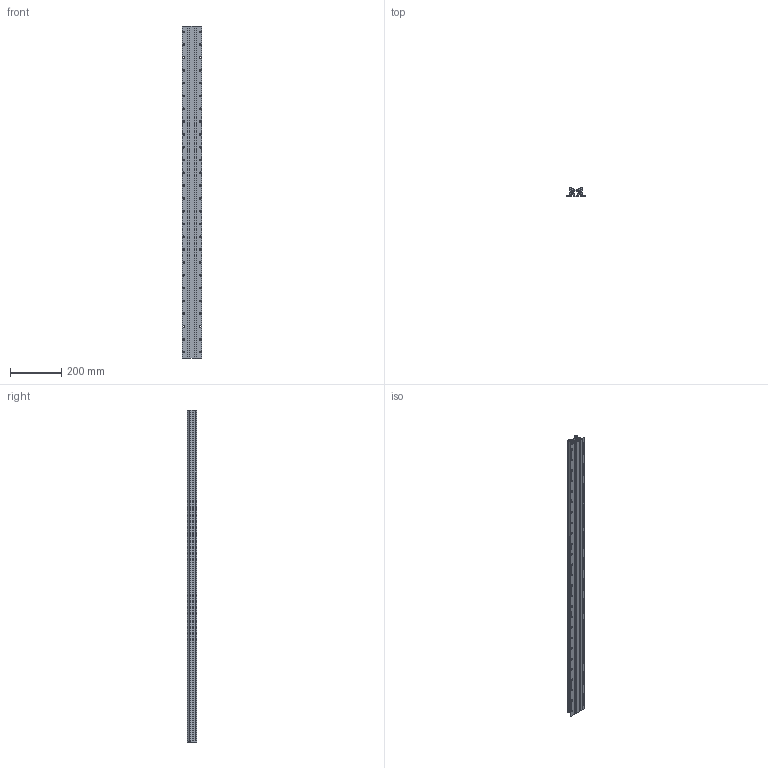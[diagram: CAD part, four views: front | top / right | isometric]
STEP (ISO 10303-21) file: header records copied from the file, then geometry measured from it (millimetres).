
FILE_DESCRIPTION (( 'STEP AP203' ), '1' );
FILE_NAME ('LFS-8-7_-_L=1296.step', '2006-12-18T13:27:08', ( ' ' ), ( ' ' ), 'SwSTEP 2.0', 'SolidWorks 2006089', '' );
FILE_SCHEMA (( 'CONFIG_CONTROL_DESIGN' ));
Length unit declared in the file: millimetre
Products named in the file (1): LFS-8-7_-_L=1296
Bounding box: 78 x 36 x 1296 mm (x, y, z)
Volume: 1121300.4 mm3; surface area: 721292.3 mm2
Topology: 3 solids, 3 shells, 383 faces, 1183 edges, 754 vertices
Faces by surface type: plane 223, cylinder 160
Entity records: 13378 total; most frequent: CARTESIAN_POINT 2945, ORIENTED_EDGE 2366, DIRECTION 2063, EDGE_CURVE 1183, VERTEX_POINT 754, AXIS2_PLACEMENT_3D 704, VECTOR 655, LINE 655
